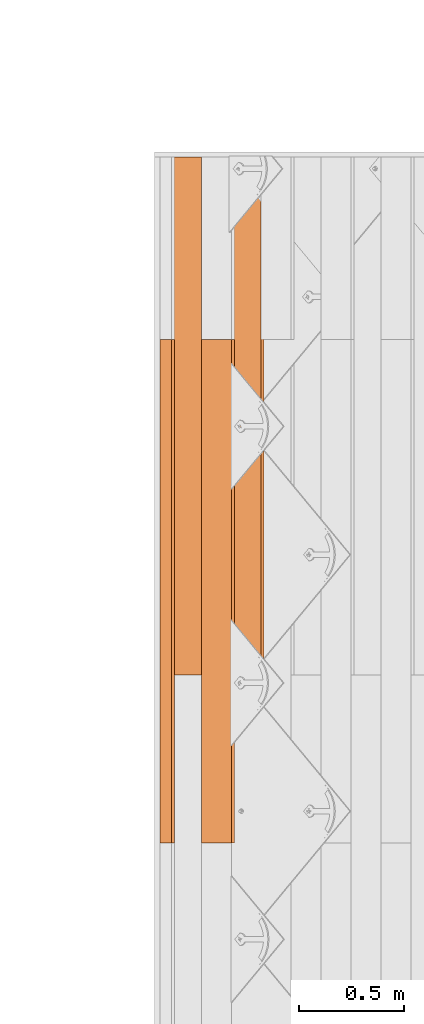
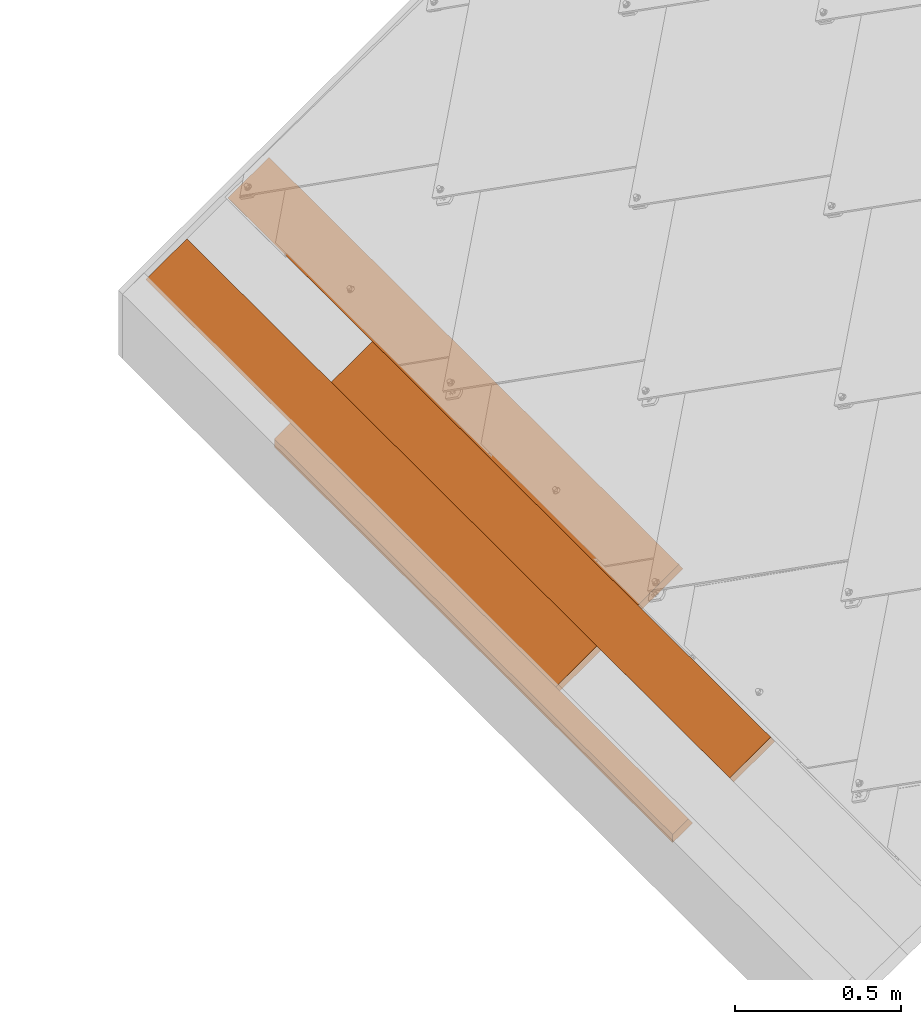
# One storey, part 53 of 151: 4 proxies, 1 element without a shape of its own.
"""IFC2X3 building model written with IfcOpenShell, lengths in millimetres."""

import ifcopenshell
import ifcopenshell.guid

model = None  # the IFC model being written
_history = None  # IfcOwnerHistory: only IFC2X3 demands one
_inside = {}  # id of a spatial element -> (the spatial element, [elements in it])
_under = {}  # id of a project, library or spatial element -> (it, [spatial elements below it])
_declared = {}  # id of a project -> (the project, [libraries it declares])
_typed = {}  # id of a type object -> (the type object, [elements of that type])
_made_of = {}  # id of a material, layer set ... -> (it, [elements and type objects made of it])


def new_model(schema):
    """Start an empty IFC model of exactly this schema.

    Asked for "IFC4X3", IfcOpenShell would pick the latest addendum, in which some entities
    have other attributes; the version numbers below select the first issue.
    IFC2X3 requires an IfcOwnerHistory on every rooted entity: one is made here for all.
    """
    global model, _history
    if schema == "IFC4X3":
        model = ifcopenshell.file(schema_version=(4, 3, 0, 0))
    else:
        model = ifcopenshell.file(schema=schema)
    _inside.clear()
    _under.clear()
    _declared.clear()
    _typed.clear()
    _made_of.clear()
    _history = None
    if model.schema == "IFC2X3":
        org = make("IfcOrganization", Name="unknown")
        user = make(
            "IfcPersonAndOrganization",
            ThePerson=make("IfcPerson", FamilyName="unknown"),
            TheOrganization=org,
        )
        app = make(
            "IfcApplication",
            ApplicationDeveloper=org,
            Version="unknown",
            ApplicationFullName="unknown",
            ApplicationIdentifier="unknown",
        )
        _history = make(
            "IfcOwnerHistory",
            OwningUser=user,
            OwningApplication=app,
            ChangeAction="ADDED",
            CreationDate=0,
        )
    return model


def make(cls, **values):
    """One entity of the class cls with the attributes given. An attribute that is None is left unset."""
    return model.create_entity(
        cls, **{name: value for name, value in values.items() if value is not None}
    )


def entity(cls, *values):
    """Any entity or typed value of the class cls, its attributes in the order of the schema. None: left unset."""
    e = model.create_entity(cls)
    for i, value in enumerate(values):
        if value is not None:
            e[i] = value
    return e


def rooted(cls, **values):
    """An entity with a GlobalId (a new one), such as an element, a storey or a relation."""
    return make(cls, GlobalId=ifcopenshell.guid.new(), OwnerHistory=_history, **values)


def si_unit(unit_type, name, prefix=None):
    """IfcSIUnit, for example si_unit("LENGTHUNIT", "METRE", prefix="MILLI")."""
    return make("IfcSIUnit", UnitType=unit_type, Prefix=prefix, Name=name)


def converted_unit(unit_type, name, factor, base, dimensions=None, offset=None):
    """IfcConversionBasedUnit, such as the inch: factor (a typed value) times the base unit."""
    return make(
        "IfcConversionBasedUnit"
        if offset is None
        else "IfcConversionBasedUnitWithOffset",
        ConversionOffset=offset,
        Dimensions=None
        if dimensions is None
        else entity("IfcDimensionalExponents", *dimensions),
        UnitType=unit_type,
        Name=name,
        ConversionFactor=make(
            "IfcMeasureWithUnit", ValueComponent=factor, UnitComponent=base
        ),
    )


def derived_unit(unit_type, elements):
    """IfcDerivedUnit: a product of units, each with its exponent."""
    return make(
        "IfcDerivedUnit",
        Elements=[
            make("IfcDerivedUnitElement", Unit=unit, Exponent=power)
            for unit, power in elements
        ],
        UnitType=unit_type,
    )


def assignment(units):
    """IfcUnitAssignment: the units of a project."""
    return None if units is None else make("IfcUnitAssignment", Units=units)


def point(xyz):
    """IfcCartesianPoint."""
    return None if xyz is None else make("IfcCartesianPoint", Coordinates=xyz)


def direction(xyz):
    """IfcDirection."""
    return None if xyz is None else make("IfcDirection", DirectionRatios=xyz)


def frame(location, z_axis=None, x_axis=None):
    """IfcAxis2Placement3D, a coordinate frame: its origin and axes. An axis left out is left unset."""
    return make(
        "IfcAxis2Placement3D",
        Location=point(location),
        Axis=direction(z_axis),
        RefDirection=direction(x_axis),
    )


def frame_2d(location, x_axis=None):
    """IfcAxis2Placement2D, a coordinate frame in the plane: its origin and x axis."""
    return make(
        "IfcAxis2Placement2D", Location=point(location), RefDirection=direction(x_axis)
    )


def origin():
    """The frame at (0, 0, 0) with its axes left unset."""
    return frame((0.0, 0.0, 0.0))


def place(relative_to, where):
    """IfcLocalPlacement: puts the frame where relative to a parent placement (None: the world)."""
    return make(
        "IfcLocalPlacement", PlacementRelTo=relative_to, RelativePlacement=where
    )


def context(
    kind, dimensions, precision=None, world=None, true_north=None, identifier=None
):
    """IfcGeometricRepresentationContext, for example the 3D "Model" context."""
    return make(
        "IfcGeometricRepresentationContext",
        ContextIdentifier=identifier,
        ContextType=kind,
        CoordinateSpaceDimension=dimensions,
        Precision=precision,
        WorldCoordinateSystem=world,
        TrueNorth=true_north,
    )


def subcontext(parent, identifier, kind, view, scale=None):
    """IfcGeometricRepresentationSubContext, for example "Body" below "Model"."""
    return make(
        "IfcGeometricRepresentationSubContext",
        ContextIdentifier=identifier,
        ContextType=kind,
        ParentContext=parent,
        TargetScale=scale,
        TargetView=view,
    )


def project(units=None, contexts=None):
    """IfcProject with its units and contexts."""
    return rooted(
        "IfcProject",
        Name="project",
        RepresentationContexts=contexts,
        UnitsInContext=assignment(units),
    )


def spatial(cls, under=None, at=None, **own):
    """A site, building, storey or space (cls), placed at a placement, below another one or the project."""
    s = rooted(cls, ObjectPlacement=at, **own)
    if under is not None:
        _under.setdefault(under.id(), (under, []))[1].append(s)
    return s


def polyline(points):
    """IfcPolyline through the points."""
    return make("IfcPolyline", Points=[point(p) for p in points])


def profile(cls, at=None, kind="AREA", **sizes):
    """A parametric profile (cls). Its sizes go by their IFC names, for example OverallWidth=200.0."""
    return make(cls, ProfileType=kind, Position=at, **sizes)


def rectangle(**sizes):
    """IfcRectangleProfileDef."""
    return profile("IfcRectangleProfileDef", **sizes)


def outline(outer, holes=None, kind="AREA"):
    """IfcArbitraryClosedProfileDef: a profile drawn as a closed curve; with holes, ...WithVoids."""
    if holes is None:
        return make("IfcArbitraryClosedProfileDef", ProfileType=kind, OuterCurve=outer)
    return make(
        "IfcArbitraryProfileDefWithVoids",
        ProfileType=kind,
        OuterCurve=outer,
        InnerCurves=holes,
    )


def extrude(swept, where, along, depth):
    """IfcExtrudedAreaSolid: the profile swept, set in the frame where, extruded along a direction by depth."""
    return make(
        "IfcExtrudedAreaSolid",
        SweptArea=swept,
        Position=where,
        ExtrudedDirection=direction(along),
        Depth=depth,
    )


def shape(context_of_items, identifier, shape_type, items):
    """IfcShapeRepresentation: the items that make up one representation, for example the "Body"."""
    return make(
        "IfcShapeRepresentation",
        ContextOfItems=context_of_items,
        RepresentationIdentifier=identifier,
        RepresentationType=shape_type,
        Items=items,
    )


def source(mapping_origin, context_of_items, identifier, shape_type, items):
    """IfcRepresentationMap: a shape defined once, which mapped items show again and again."""
    return make(
        "IfcRepresentationMap",
        MappingOrigin=mapping_origin,
        MappedRepresentation=shape(context_of_items, identifier, shape_type, items),
    )


def transform(
    local_origin,
    x_axis=None,
    y_axis=None,
    z_axis=None,
    scale=None,
    scale2=None,
    scale3=None,
    uniform=True,
):
    """IfcCartesianTransformationOperator3D, or its non-uniform kind. x_axis, y_axis, z_axis: its Axis1, 2, 3."""
    if uniform:
        return make(
            "IfcCartesianTransformationOperator3D",
            Axis1=direction(x_axis),
            Axis2=direction(y_axis),
            LocalOrigin=point(local_origin),
            Scale=scale,
            Axis3=direction(z_axis),
        )
    return make(
        "IfcCartesianTransformationOperator3DnonUniform",
        Axis1=direction(x_axis),
        Axis2=direction(y_axis),
        LocalOrigin=point(local_origin),
        Scale=scale,
        Axis3=direction(z_axis),
        Scale2=scale2,
        Scale3=scale3,
    )


def mapped(mapping_source, mapping_target):
    """IfcMappedItem: shows the shape of a source again, moved by a transform."""
    return make(
        "IfcMappedItem", MappingSource=mapping_source, MappingTarget=mapping_target
    )


def material(Name=None, Category=None):
    """IfcMaterial."""
    return make("IfcMaterial", Name=Name, Category=Category)


def made_of(thing, what):
    """Note that an element or type object is made of a material, layer set ...; save() writes the relation."""
    if what is not None:
        _made_of.setdefault(what.id(), (what, []))[1].append(thing)
    return thing


def type_object(cls, material=None, **own):
    """A type object (cls), such as IfcWallType, which elements share."""
    return made_of(rooted(cls, **own), material)


def type_shapes(of_type, sources):
    """Give a type object the sources (RepresentationMaps) that its elements show as mapped items."""
    of_type.RepresentationMaps = sources


def element(
    cls,
    number,
    at=None,
    inside=None,
    cuts=None,
    type_object=None,
    material=None,
    context=None,
    identifier="Body",
    shape_type=None,
    held_by="IfcProductDefinitionShape",
    body=None,
    shapes=None,
    **own,
):
    """One element of the class cls, such as IfcWall. Its Tag is "e" and its number.

    at: its placement. inside: the storey or other place that contains it. cuts: it is an
    opening in that element (IfcRelVoidsElement). A single representation is given by context,
    identifier, shape_type and body (its items); several are given by shapes. held_by: the class
    of the entity that holds the representations. save() writes the other relations.
    """
    e = rooted(cls, Tag="e%d" % number, ObjectPlacement=at, **own)
    if body is not None:
        shapes = [shape(context, identifier, shape_type, body)]
    if shapes is not None:
        e.Representation = make(held_by, Representations=shapes)
    if inside is not None:
        _inside.setdefault(inside.id(), (inside, []))[1].append(e)
    if cuts is not None:
        rooted(
            "IfcRelVoidsElement", RelatingBuildingElement=cuts, RelatedOpeningElement=e
        )
    if type_object is not None:
        _typed.setdefault(type_object.id(), (type_object, []))[1].append(e)
    return made_of(e, material)


def aggregate(whole, parts):
    """IfcRelAggregates: a whole, such as a stair, and the parts it consists of."""
    return rooted("IfcRelAggregates", RelatingObject=whole, RelatedObjects=parts)


def save(model, path):
    """Write the relations noted so far, then the file.

    IfcRelAggregates (storeys below a building ...), IfcRelContainedInSpatialStructure (elements
    in a storey), IfcRelDefinesByType, IfcRelAssociatesMaterial and IfcRelDeclares: one each for
    every whole, place, type object, material and project.
    """
    for whole, parts in _under.values():
        aggregate(whole, parts)
    for where, things in _inside.values():
        rooted(
            "IfcRelContainedInSpatialStructure",
            RelatedElements=things,
            RelatingStructure=where,
        )
    for kind, things in _typed.values():
        rooted("IfcRelDefinesByType", RelatedObjects=things, RelatingType=kind)
    for what, things in _made_of.values():
        rooted("IfcRelAssociatesMaterial", RelatedObjects=things, RelatingMaterial=what)
    for by, libraries in _declared.values():
        rooted("IfcRelDeclares", RelatingContext=by, RelatedDefinitions=libraries)
    model.write(path)


model = new_model("IFC2X3")

# Units and contexts
model_context = context("Model", 3, precision=0.01, world=origin(), true_north=direction((6.12303176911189e-17, 1.0)))
body_context = subcontext(model_context, "Body", "Model", "MODEL_VIEW")
ifc_project = project(units=[si_unit("LENGTHUNIT", "METRE", prefix="MILLI"), si_unit("AREAUNIT", "SQUARE_METRE"), si_unit("VOLUMEUNIT", "CUBIC_METRE"), converted_unit("PLANEANGLEUNIT", "DEGREE", entity("IfcRatioMeasure", 0.0174532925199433), si_unit("PLANEANGLEUNIT", "RADIAN"), dimensions=[0, 0, 0, 0, 0, 0, 0]), si_unit("MASSUNIT", "GRAM", prefix="KILO"), derived_unit("MASSDENSITYUNIT", [(si_unit("MASSUNIT", "GRAM", prefix="KILO"), 1), (si_unit("LENGTHUNIT", "METRE"), -3)]), si_unit("TIMEUNIT", "SECOND"), si_unit("FREQUENCYUNIT", "HERTZ"), si_unit("THERMODYNAMICTEMPERATUREUNIT", "DEGREE_CELSIUS"), derived_unit("THERMALTRANSMITTANCEUNIT", [(si_unit("MASSUNIT", "GRAM", prefix="KILO"), 1), (si_unit("THERMODYNAMICTEMPERATUREUNIT", "KELVIN"), -1), (si_unit("TIMEUNIT", "SECOND"), -3)]), derived_unit("VOLUMETRICFLOWRATEUNIT", [(si_unit("LENGTHUNIT", "METRE"), 3), (si_unit("TIMEUNIT", "SECOND"), -1)]), si_unit("ELECTRICCURRENTUNIT", "AMPERE"), si_unit("ELECTRICVOLTAGEUNIT", "VOLT"), si_unit("POWERUNIT", "WATT"), si_unit("FORCEUNIT", "NEWTON", prefix="KILO"), si_unit("ILLUMINANCEUNIT", "LUX"), si_unit("LUMINOUSFLUXUNIT", "LUMEN"), si_unit("LUMINOUSINTENSITYUNIT", "CANDELA"), derived_unit("USERDEFINED", [(si_unit("MASSUNIT", "GRAM", prefix="KILO"), -1), (si_unit("LENGTHUNIT", "METRE"), -2), (si_unit("TIMEUNIT", "SECOND"), 3), (si_unit("LUMINOUSFLUXUNIT", "LUMEN"), 1)]), derived_unit("LINEARVELOCITYUNIT", [(si_unit("LENGTHUNIT", "METRE"), 1), (si_unit("TIMEUNIT", "SECOND"), -1)]), si_unit("PRESSUREUNIT", "PASCAL"), derived_unit("USERDEFINED", [(si_unit("LENGTHUNIT", "METRE"), -2), (si_unit("MASSUNIT", "GRAM", prefix="KILO"), 1), (si_unit("TIMEUNIT", "SECOND"), -2)])], contexts=[model_context])

# Site, building, storey
site_placement = place(None, origin())
site = spatial("IfcSite", under=ifc_project, at=site_placement, Name="Default", CompositionType="ELEMENT")
building_placement = place(site_placement, origin())
building = spatial("IfcBuilding", under=site, at=building_placement, CompositionType="ELEMENT")
storey_placement = place(building_placement, origin())
storey = spatial("IfcBuildingStorey", under=building, at=storey_placement, Name="Level 1", CompositionType="ELEMENT", Elevation=0.0)

# Assembly, proxies
assembly_placement = place(storey_placement, origin())
assembly = element("IfcElementAssembly", 1, at=assembly_placement, inside=storey, Name="Structural Framing Assembly:Roof Construction Assembly", ObjectType="Structural Framing Assembly:Roof Construction Assembly", AssemblyPlace="NOTDEFINED", PredefinedType="USERDEFINED")
ifc_material = material(Name="Wood - Generic - Wood For Showcase")
building_element_proxy_type_1 = type_object("IfcBuildingElementProxyType", Name="Structural Framing 15", PredefinedType="NOTDEFINED", material=ifc_material)
shared_shape_1 = source(origin(), body_context, "Body", "SweptSolid", [
    extrude(rectangle(XDim=24.9999999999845, YDim=174.344679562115, at=frame_2d((-1.77635683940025e-13, -4.54747350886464e-13), x_axis=(0.0, 1.0))), frame((1128.20180147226, 1455.55080214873, 2760.23940055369), z_axis=(0.0, 1.0, 0.0), x_axis=(-0.819152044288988, 0.0, -0.573576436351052)), (0.0, 0.0, 1.0), 2469.99999999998),
])
type_shapes(building_element_proxy_type_1, [shared_shape_1])
proxy_1_placement = place(assembly_placement, frame((-3370.06734507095, 0.0, -2400.0)))
proxy_1 = element("IfcBuildingElementProxy", 2, at=proxy_1_placement, type_object=building_element_proxy_type_1, material=ifc_material, Name="Structural Framing 135:Structural Framing 15", ObjectType="Structural Framing 135:Structural Framing 15", context=body_context, shape_type="MappedRepresentation", body=[
    mapped(shared_shape_1, transform((0.0, 0.0, 0.0), scale=1.0)),
])
building_element_proxy_type_2 = type_object("IfcBuildingElementProxyType", Name="Structural Framing 15", PredefinedType="NOTDEFINED", material=ifc_material)
shared_shape_2 = source(origin(), body_context, "Body", "SweptSolid", [
    extrude(rectangle(XDim=24.9999999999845, YDim=174.344679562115, at=frame_2d((-1.77635683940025e-13, -4.54747350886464e-13), x_axis=(0.0, 1.0))), frame((1128.20180147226, 1525.55080214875, 2760.23940055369), z_axis=(0.0, 1.0, 0.0), x_axis=(-0.819152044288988, 0.0, -0.573576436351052)), (0.0, 0.0, 1.0), 2399.99999999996),
])
type_shapes(building_element_proxy_type_2, [shared_shape_2])
proxy_2_placement = place(assembly_placement, frame((-3512.88214574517, -870.0, -2500.0)))
proxy_2 = element("IfcBuildingElementProxy", 3, at=proxy_2_placement, type_object=building_element_proxy_type_2, material=ifc_material, Name="Structural Framing 140:Structural Framing 15", ObjectType="Structural Framing 140:Structural Framing 15", context=body_context, shape_type="MappedRepresentation", body=[
    mapped(shared_shape_2, transform((0.0, 0.0, 0.0), scale=1.0)),
])
building_element_proxy_type_3 = type_object("IfcBuildingElementProxyType", Name="Structural Framing 15", PredefinedType="NOTDEFINED", material=ifc_material)
shared_shape_3 = source(origin(), body_context, "Body", "SweptSolid", [
    extrude(rectangle(XDim=24.9999999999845, YDim=174.344679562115, at=frame_2d((-1.77635683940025e-13, -4.54747350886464e-13), x_axis=(0.0, 1.0))), frame((1128.20180147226, 1455.55080214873, 2760.23940055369), z_axis=(0.0, 1.0, 0.0), x_axis=(-0.819152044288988, 0.0, -0.573576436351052)), (0.0, 0.0, 1.0), 2469.99999999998),
])
type_shapes(building_element_proxy_type_3, [shared_shape_3])
proxy_3_placement = place(assembly_placement, frame((-3655.6969464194, 0.0, -2600.0)))
proxy_3 = element("IfcBuildingElementProxy", 4, at=proxy_3_placement, type_object=building_element_proxy_type_3, material=ifc_material, Name="Structural Framing 145:Structural Framing 15", ObjectType="Structural Framing 145:Structural Framing 15", context=body_context, shape_type="MappedRepresentation", body=[
    mapped(shared_shape_3, transform((0.0, 0.0, 0.0), scale=1.0)),
])
building_element_proxy_type_4 = type_object("IfcBuildingElementProxyType", Name="Structural Framing 15", PredefinedType="NOTDEFINED", material=ifc_material)
shared_shape_4 = source(origin(), body_context, "Body", "SweptSolid", [
    extrude(outline(polyline([(-38.2231230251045, -12.4999999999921), (46.9757172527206, -12.4999999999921), (29.4705287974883, 12.4999999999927), (-38.2231230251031, 12.4999999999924), (-38.2231230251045, -12.4999999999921)])), frame((-2687.70096575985, -6581.94919785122, 88.315517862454), z_axis=(0.0, 1.0, 0.0), x_axis=(-0.81915204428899, 0.0, -0.573576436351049)), (0.0, 0.0, 1.0), 2399.99999999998),
])
type_shapes(building_element_proxy_type_4, [shared_shape_4])
proxy_4_placement = place(assembly_placement, frame((57.4878711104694, 7237.49999999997, 0.0)))
proxy_4 = element("IfcBuildingElementProxy", 5, at=proxy_4_placement, type_object=building_element_proxy_type_4, material=ifc_material, Name="Structural Framing 153:Structural Framing 15", ObjectType="Structural Framing 153:Structural Framing 15", context=body_context, shape_type="MappedRepresentation", body=[
    mapped(shared_shape_4, transform((0.0, 0.0, 0.0), scale=1.0)),
])
aggregate(assembly, [proxy_1, proxy_2, proxy_3, proxy_4])

save(model, "model.ifc")
